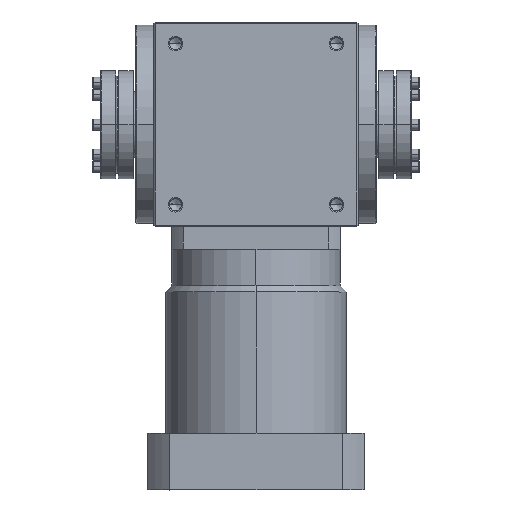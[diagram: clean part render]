
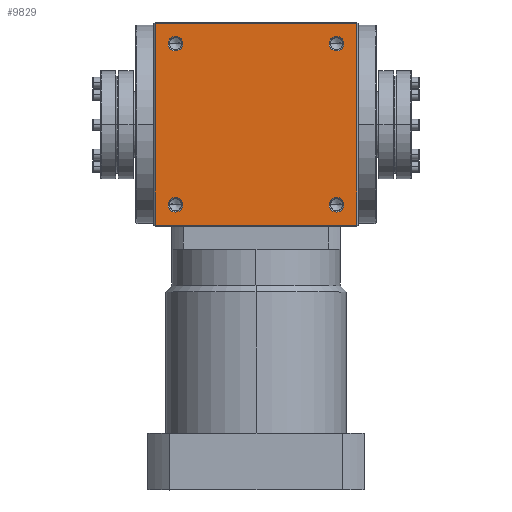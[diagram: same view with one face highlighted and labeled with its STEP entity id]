
A CAD part, top view. The second image highlights one B-rep face of the part: STEP entity #9829.
In plain terms, the highlighted planar face has unit normal (0, 0, 1).
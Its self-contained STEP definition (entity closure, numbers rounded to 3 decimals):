
#144 = CARTESIAN_POINT ( 'NONE',  ( -67., 67., 85. ) ) ;
#365 = AXIS2_PLACEMENT_3D ( 'NONE', #6476, #18416, #8254 ) ;
#1044 = DIRECTION ( 'NONE',  ( 0., 1., 0. ) ) ;
#1244 = LINE ( 'NONE', #8196, #10489 ) ;
#1491 = CARTESIAN_POINT ( 'NONE',  ( -84., -84., 85. ) ) ;
#1569 = CIRCLE ( 'NONE', #14480, 6.1 ) ;
#1592 = CARTESIAN_POINT ( 'NONE',  ( 84., 84., 85. ) ) ;
#1626 = EDGE_CURVE ( 'NONE', #14357, #2029, #9251, .T. ) ;
#1857 = EDGE_CURVE ( 'NONE', #20589, #5963, #7059, .T. ) ;
#1969 = DIRECTION ( 'NONE',  ( 1., 0., 0. ) ) ;
#2029 = VERTEX_POINT ( 'NONE', #11640 ) ;
#2272 = EDGE_CURVE ( 'NONE', #3089, #6077, #1244, .T. ) ;
#2732 = VERTEX_POINT ( 'NONE', #16150 ) ;
#2887 = FACE_BOUND ( 'NONE', #14462, .T. ) ;
#3084 = EDGE_LOOP ( 'NONE', ( #7738, #13694 ) ) ;
#3089 = VERTEX_POINT ( 'NONE', #1592 ) ;
#3235 = VECTOR ( 'NONE', #17046, 1000. ) ;
#4249 = AXIS2_PLACEMENT_3D ( 'NONE', #19780, #19645, #19489 ) ;
#4303 = LINE ( 'NONE', #13135, #13371 ) ;
#4504 = VERTEX_POINT ( 'NONE', #5556 ) ;
#4814 = ORIENTED_EDGE ( 'NONE', *, *, #10438, .F. ) ;
#5256 = ORIENTED_EDGE ( 'NONE', *, *, #17422, .F. ) ;
#5386 = ORIENTED_EDGE ( 'NONE', *, *, #15329, .F. ) ;
#5556 = CARTESIAN_POINT ( 'NONE',  ( -84., 84., 85. ) ) ;
#5963 = VERTEX_POINT ( 'NONE', #21842 ) ;
#6077 = VERTEX_POINT ( 'NONE', #14156 ) ;
#6476 = CARTESIAN_POINT ( 'NONE',  ( 67., -67., 85. ) ) ;
#6627 = VECTOR ( 'NONE', #16431, 1000. ) ;
#6945 = CARTESIAN_POINT ( 'NONE',  ( -67., 67., 85. ) ) ;
#7059 = CIRCLE ( 'NONE', #4249, 6.1 ) ;
#7731 = EDGE_CURVE ( 'NONE', #17911, #6077, #20891, .T. ) ;
#7738 = ORIENTED_EDGE ( 'NONE', *, *, #10946, .F. ) ;
#7745 = CIRCLE ( 'NONE', #19483, 6.1 ) ;
#7970 = DIRECTION ( 'NONE',  ( 1., 0., 0. ) ) ;
#7998 = DIRECTION ( 'NONE',  ( 0., -1., 0. ) ) ;
#8037 = EDGE_CURVE ( 'NONE', #17911, #4504, #4303, .T. ) ;
#8196 = CARTESIAN_POINT ( 'NONE',  ( 84., 0., 85. ) ) ;
#8254 = DIRECTION ( 'NONE',  ( 1., 0., 0. ) ) ;
#8323 = DIRECTION ( 'NONE',  ( 0., 0., 1. ) ) ;
#8452 = DIRECTION ( 'NONE',  ( 0., 0., 1. ) ) ;
#8491 = CARTESIAN_POINT ( 'NONE',  ( 67., -67., 85. ) ) ;
#8692 = DIRECTION ( 'NONE',  ( 1., 0., 0. ) ) ;
#8861 = CARTESIAN_POINT ( 'NONE',  ( 0., -84., 85. ) ) ;
#8900 = AXIS2_PLACEMENT_3D ( 'NONE', #18621, #8452, #20341 ) ;
#9251 = CIRCLE ( 'NONE', #16579, 6.1 ) ;
#9464 = DIRECTION ( 'NONE',  ( 1., 0., 0. ) ) ;
#9481 = DIRECTION ( 'NONE',  ( 0., 0., 1. ) ) ;
#9698 = ORIENTED_EDGE ( 'NONE', *, *, #1857, .F. ) ;
#9811 = CARTESIAN_POINT ( 'NONE',  ( 73.1, -67., 85. ) ) ;
#9829 = ADVANCED_FACE ( 'NONE', ( #16570, #21093, #12528, #2887, #21652 ), #17044, .F. ) ;
#10438 = EDGE_CURVE ( 'NONE', #5963, #20589, #7745, .T. ) ;
#10489 = VECTOR ( 'NONE', #7998, 1000. ) ;
#10497 = EDGE_CURVE ( 'NONE', #4504, #3089, #15706, .T. ) ;
#10946 = EDGE_CURVE ( 'NONE', #14661, #18497, #1569, .T. ) ;
#11421 = EDGE_LOOP ( 'NONE', ( #5256, #16415 ) ) ;
#11640 = CARTESIAN_POINT ( 'NONE',  ( 60.9, -67., 85. ) ) ;
#11717 = ORIENTED_EDGE ( 'NONE', *, *, #8037, .F. ) ;
#12169 = CARTESIAN_POINT ( 'NONE',  ( -73.1, 67., 85. ) ) ;
#12287 = DIRECTION ( 'NONE',  ( 0., 0., 1. ) ) ;
#12528 = FACE_BOUND ( 'NONE', #3084, .T. ) ;
#12912 = CIRCLE ( 'NONE', #21746, 6.1 ) ;
#13056 = EDGE_LOOP ( 'NONE', ( #9698, #4814 ) ) ;
#13135 = CARTESIAN_POINT ( 'NONE',  ( -84., 0., 85. ) ) ;
#13371 = VECTOR ( 'NONE', #1044, 1000. ) ;
#13694 = ORIENTED_EDGE ( 'NONE', *, *, #15900, .F. ) ;
#14021 = VERTEX_POINT ( 'NONE', #12169 ) ;
#14156 = CARTESIAN_POINT ( 'NONE',  ( 84., -84., 85. ) ) ;
#14329 = CIRCLE ( 'NONE', #365, 6.1 ) ;
#14357 = VERTEX_POINT ( 'NONE', #9811 ) ;
#14462 = EDGE_LOOP ( 'NONE', ( #22126, #5386 ) ) ;
#14480 = AXIS2_PLACEMENT_3D ( 'NONE', #20040, #9481, #9464 ) ;
#14661 = VERTEX_POINT ( 'NONE', #15797 ) ;
#15329 = EDGE_CURVE ( 'NONE', #2029, #14357, #14329, .T. ) ;
#15567 = EDGE_CURVE ( 'NONE', #14021, #2732, #19150, .T. ) ;
#15706 = LINE ( 'NONE', #16481, #6627 ) ;
#15797 = CARTESIAN_POINT ( 'NONE',  ( -60.9, -67., 85. ) ) ;
#15900 = EDGE_CURVE ( 'NONE', #18497, #14661, #19421, .T. ) ;
#16150 = CARTESIAN_POINT ( 'NONE',  ( -60.9, 67., 85. ) ) ;
#16283 = DIRECTION ( 'NONE',  ( -1., 0., 0. ) ) ;
#16415 = ORIENTED_EDGE ( 'NONE', *, *, #15567, .F. ) ;
#16431 = DIRECTION ( 'NONE',  ( 1., 0., 0. ) ) ;
#16481 = CARTESIAN_POINT ( 'NONE',  ( 0., 84., 85. ) ) ;
#16570 = FACE_BOUND ( 'NONE', #11421, .T. ) ;
#16579 = AXIS2_PLACEMENT_3D ( 'NONE', #8491, #8323, #7970 ) ;
#16757 = ORIENTED_EDGE ( 'NONE', *, *, #2272, .F. ) ;
#16858 = DIRECTION ( 'NONE',  ( 1., 0., 0. ) ) ;
#16878 = DIRECTION ( 'NONE',  ( 0., 0., 1. ) ) ;
#16909 = CARTESIAN_POINT ( 'NONE',  ( 67., 67., 85. ) ) ;
#17044 = PLANE ( 'NONE',  #18452 ) ;
#17046 = DIRECTION ( 'NONE',  ( 1., 0., 0. ) ) ;
#17147 = CARTESIAN_POINT ( 'NONE',  ( 73.1, 67., 85. ) ) ;
#17422 = EDGE_CURVE ( 'NONE', #2732, #14021, #12912, .T. ) ;
#17911 = VERTEX_POINT ( 'NONE', #1491 ) ;
#18416 = DIRECTION ( 'NONE',  ( 0., 0., 1. ) ) ;
#18434 = EDGE_LOOP ( 'NONE', ( #19511, #16757, #18619, #11717 ) ) ;
#18452 = AXIS2_PLACEMENT_3D ( 'NONE', #20965, #21055, #16283 ) ;
#18497 = VERTEX_POINT ( 'NONE', #19363 ) ;
#18619 = ORIENTED_EDGE ( 'NONE', *, *, #10497, .F. ) ;
#18621 = CARTESIAN_POINT ( 'NONE',  ( -67., -67., 85. ) ) ;
#18871 = DIRECTION ( 'NONE',  ( 0., 0., 1. ) ) ;
#19150 = CIRCLE ( 'NONE', #22335, 6.1 ) ;
#19363 = CARTESIAN_POINT ( 'NONE',  ( -73.1, -67., 85. ) ) ;
#19421 = CIRCLE ( 'NONE', #8900, 6.1 ) ;
#19483 = AXIS2_PLACEMENT_3D ( 'NONE', #16909, #16878, #16858 ) ;
#19489 = DIRECTION ( 'NONE',  ( 1., 0., 0. ) ) ;
#19511 = ORIENTED_EDGE ( 'NONE', *, *, #7731, .T. ) ;
#19645 = DIRECTION ( 'NONE',  ( 0., 0., 1. ) ) ;
#19780 = CARTESIAN_POINT ( 'NONE',  ( 67., 67., 85. ) ) ;
#20040 = CARTESIAN_POINT ( 'NONE',  ( -67., -67., 85. ) ) ;
#20341 = DIRECTION ( 'NONE',  ( 1., 0., 0. ) ) ;
#20589 = VERTEX_POINT ( 'NONE', #17147 ) ;
#20891 = LINE ( 'NONE', #8861, #3235 ) ;
#20965 = CARTESIAN_POINT ( 'NONE',  ( 84., -84., 85. ) ) ;
#21055 = DIRECTION ( 'NONE',  ( 0., 0., -1. ) ) ;
#21093 = FACE_BOUND ( 'NONE', #13056, .T. ) ;
#21652 = FACE_OUTER_BOUND ( 'NONE', #18434, .T. ) ;
#21746 = AXIS2_PLACEMENT_3D ( 'NONE', #6945, #18871, #8692 ) ;
#21842 = CARTESIAN_POINT ( 'NONE',  ( 60.9, 67., 85. ) ) ;
#22126 = ORIENTED_EDGE ( 'NONE', *, *, #1626, .F. ) ;
#22335 = AXIS2_PLACEMENT_3D ( 'NONE', #144, #12287, #1969 ) ;
